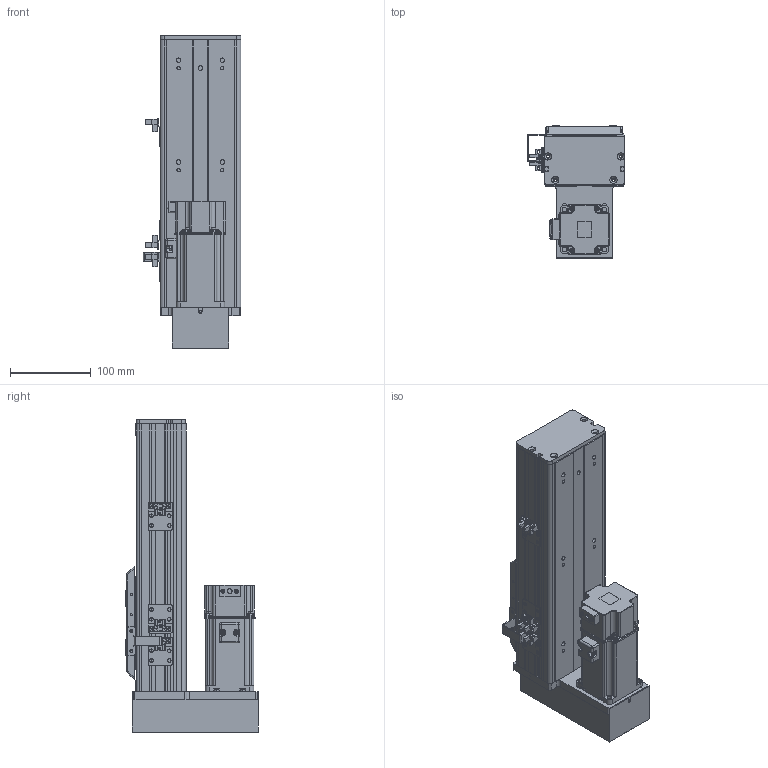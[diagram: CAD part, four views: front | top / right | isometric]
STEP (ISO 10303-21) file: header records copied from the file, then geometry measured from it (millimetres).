
FILE_DESCRIPTION (( 'STEP AP203' ), '1' );
FILE_NAME ('BOSW100-150-1610-1P-DM-M400W-O-S3（方程式2016）.step', '2020-10-10T06:39:42', ( '' ), ( '' ), 'SwSTEP 2.0', 'SolidWorks 2016', '' );
FILE_SCHEMA (( 'CONFIG_CONTROL_DESIGN' ));
Length unit declared in the file: millimetre
Products named in the file (14): BOSW-100-1P-DM-150諦誧芞; BOSW&TW-100-1P-賑雄釱欶; 俋境嫖覜嘐隅啣; BOSW&TW-100-詩湍揤沭(陔賦凳); BOSW-100-1P-DM-宽轨-钢带-150客户图纸; BOSW&TW-100-俋离覜茼え; S400W(SMA-L040); BOSW100-150-1610-1P-DM-M400W-O-S3（方程式2016）; BOSW-100-1P-DM-宽轨-侧板-150客户图纸; BOS100-DM鎮湛欶; 新结构AIMSW-100-1P-宽&高轨共用-滑动座上组件; BOSW-100-綴裔啣; 放大器内置U型微型光电传感器PM-L65; BOS-100-DM鎮湛假蚾啣
Assembly tree (19 placements, depth 2):
  BOSW100-150-1610-1P-DM-M400W-O-S3（方程式2016）
    BOSW-100-1P-DM-150諦誧芞
    BOSW-100-綴裔啣
    新结构AIMSW-100-1P-宽&高轨共用-滑动座上组件
    S400W(SMA-L040)
    BOSW&TW-100-詩湍揤沭(陔賦凳)  x2
    BOSW&TW-100-1P-賑雄釱欶
    BOSW&TW-100-俋离覜茼え
    俋境嫖覜嘐隅啣  x3
    放大器内置U型微型光电传感器PM-L65  x3
    BOSW-100-1P-DM-宽轨-侧板-150客户图纸  x2
    BOSW-100-1P-DM-宽轨-钢带-150客户图纸
    BOS100-DM鎮湛欶
    BOS-100-DM鎮湛假蚾啣
Bounding box: 120.9 x 164 x 386 mm (x, y, z)
Volume: 1058557 mm3; surface area: 530732.1 mm2
Topology: 19 solids, 19 shells, 2498 faces, 6572 edges, 4197 vertices
Faces by surface type: plane 1259, cylinder 763, bspline 271, cone 157, torus 36, sphere 12
Entity records: 68167 total; most frequent: CARTESIAN_POINT 20530, ORIENTED_EDGE 9700, DIRECTION 9358, EDGE_CURVE 4850, AXIS2_PLACEMENT_3D 3286, VERTEX_POINT 3099, LINE 2786, VECTOR 2786
